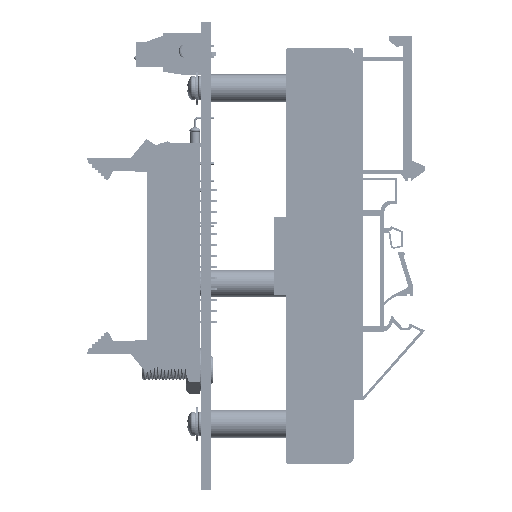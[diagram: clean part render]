
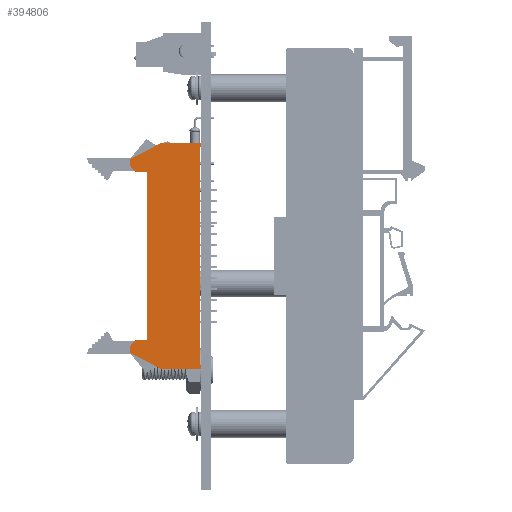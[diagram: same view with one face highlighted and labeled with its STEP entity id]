
A CAD part, left-side view. The second image highlights one B-rep face of the part: STEP entity #394806.
In plain terms, the highlighted planar face has unit normal (-1, 0, 0).
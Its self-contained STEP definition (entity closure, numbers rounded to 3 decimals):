
#2418 = LINE ( 'NONE', #289422, #168186 ) ;
#6869 = EDGE_CURVE ( 'NONE', #183978, #378523, #62615, .T. ) ;
#7757 = LINE ( 'NONE', #56213, #85535 ) ;
#9488 = ORIENTED_EDGE ( 'NONE', *, *, #122846, .F. ) ;
#17764 = DIRECTION ( 'NONE',  ( 0., 0., -1. ) ) ;
#19449 = CARTESIAN_POINT ( 'NONE',  ( -214.884, 13.627, 9.398 ) ) ;
#28802 = DIRECTION ( 'NONE',  ( 0., -1., 0. ) ) ;
#37025 = EDGE_CURVE ( 'NONE', #326029, #212846, #150920, .T. ) ;
#43603 = VECTOR ( 'NONE', #359230, 1000. ) ;
#43704 = ORIENTED_EDGE ( 'NONE', *, *, #398315, .F. ) ;
#56213 = CARTESIAN_POINT ( 'NONE',  ( -214.884, 1.181, -36.068 ) ) ;
#58666 = EDGE_LOOP ( 'NONE', ( #116820, #267382, #43704, #133811, #297288, #170814, #103152, #381309, #81847, #263973, #9488, #135791, #404146, #297310 ) ) ;
#60450 = CARTESIAN_POINT ( 'NONE',  ( -214.884, 1.181, 16.256 ) ) ;
#62615 = LINE ( 'NONE', #311916, #404613 ) ;
#65113 = EDGE_CURVE ( 'NONE', #366610, #333078, #190553, .T. ) ;
#66769 = CARTESIAN_POINT ( 'NONE',  ( -214.884, 15.405, -31.242 ) ) ;
#69102 = VERTEX_POINT ( 'NONE', #281248 ) ;
#73238 = CARTESIAN_POINT ( 'NONE',  ( -214.884, 1.372, 11.024 ) ) ;
#80462 = LINE ( 'NONE', #179293, #422487 ) ;
#80486 = VERTEX_POINT ( 'NONE', #111554 ) ;
#81847 = ORIENTED_EDGE ( 'NONE', *, *, #263823, .F. ) ;
#85535 = VECTOR ( 'NONE', #89519, 1000. ) ;
#86226 = LINE ( 'NONE', #224282, #381643 ) ;
#89519 = DIRECTION ( 'NONE',  ( 0., 1., 0. ) ) ;
#100061 = DIRECTION ( 'NONE',  ( 0., 0., -1. ) ) ;
#101140 = CARTESIAN_POINT ( 'NONE',  ( -214.884, 10.059, 16.256 ) ) ;
#103152 = ORIENTED_EDGE ( 'NONE', *, *, #277700, .F. ) ;
#107945 = VERTEX_POINT ( 'NONE', #135494 ) ;
#111554 = CARTESIAN_POINT ( 'NONE',  ( -214.884, 1.181, -36.068 ) ) ;
#114351 = DIRECTION ( 'NONE',  ( 0., 0., 1. ) ) ;
#116820 = ORIENTED_EDGE ( 'NONE', *, *, #65113, .F. ) ;
#122846 = EDGE_CURVE ( 'NONE', #212846, #326040, #232129, .T. ) ;
#128797 = DIRECTION ( 'NONE',  ( 0., 0.036, -0.999 ) ) ;
#133709 = VECTOR ( 'NONE', #114351, 1000. ) ;
#133811 = ORIENTED_EDGE ( 'NONE', *, *, #6869, .F. ) ;
#134052 = EDGE_CURVE ( 'NONE', #187655, #183978, #429700, .T. ) ;
#135494 = CARTESIAN_POINT ( 'NONE',  ( -214.884, 15.405, 9.398 ) ) ;
#135791 = ORIENTED_EDGE ( 'NONE', *, *, #37025, .F. ) ;
#136850 = CARTESIAN_POINT ( 'NONE',  ( -214.884, 15.405, -31.242 ) ) ;
#138730 = CARTESIAN_POINT ( 'NONE',  ( -214.884, 17.437, 11.43 ) ) ;
#139439 = EDGE_CURVE ( 'NONE', #80486, #326029, #7757, .T. ) ;
#148615 = CARTESIAN_POINT ( 'NONE',  ( -214.884, 10.059, -36.068 ) ) ;
#150206 = CIRCLE ( 'NONE', #153386, 2.032 ) ;
#150920 = LINE ( 'NONE', #148615, #228541 ) ;
#153386 = AXIS2_PLACEMENT_3D ( 'NONE', #414614, #216190, #17764 ) ;
#163824 = DIRECTION ( 'NONE',  ( 0., 0., 1. ) ) ;
#168186 = VECTOR ( 'NONE', #322709, 1000. ) ;
#169670 = CARTESIAN_POINT ( 'NONE',  ( -214.884, 10.059, -36.068 ) ) ;
#169858 = CARTESIAN_POINT ( 'NONE',  ( -214.884, 1.372, 11.024 ) ) ;
#170133 = DIRECTION ( 'NONE',  ( 0., 0., -1. ) ) ;
#170814 = ORIENTED_EDGE ( 'NONE', *, *, #252568, .F. ) ;
#179293 = CARTESIAN_POINT ( 'NONE',  ( -214.884, 13.627, -29.21 ) ) ;
#183978 = VERTEX_POINT ( 'NONE', #214792 ) ;
#187655 = VERTEX_POINT ( 'NONE', #138730 ) ;
#190553 = LINE ( 'NONE', #169858, #268267 ) ;
#212846 = VERTEX_POINT ( 'NONE', #301235 ) ;
#212979 = EDGE_CURVE ( 'NONE', #69102, #363709, #80462, .T. ) ;
#213322 = DIRECTION ( 'NONE',  ( 0., -0.891, 0.454 ) ) ;
#214792 = CARTESIAN_POINT ( 'NONE',  ( -214.884, 17.437, 12.497 ) ) ;
#216190 = DIRECTION ( 'NONE',  ( 1., 0., 0. ) ) ;
#224282 = CARTESIAN_POINT ( 'NONE',  ( -214.884, 1.372, -30.836 ) ) ;
#228541 = VECTOR ( 'NONE', #413645, 1000. ) ;
#228655 = CARTESIAN_POINT ( 'NONE',  ( -214.884, 10.059, 16.256 ) ) ;
#232129 = LINE ( 'NONE', #347486, #133709 ) ;
#245539 = LINE ( 'NONE', #293875, #323372 ) ;
#252568 = EDGE_CURVE ( 'NONE', #107945, #187655, #150206, .T. ) ;
#263823 = EDGE_CURVE ( 'NONE', #378189, #69102, #2418, .T. ) ;
#263973 = ORIENTED_EDGE ( 'NONE', *, *, #412970, .F. ) ;
#267382 = ORIENTED_EDGE ( 'NONE', *, *, #371979, .F. ) ;
#268267 = VECTOR ( 'NONE', #269785, 1000. ) ;
#269785 = DIRECTION ( 'NONE',  ( 0., 0., -1. ) ) ;
#277700 = EDGE_CURVE ( 'NONE', #363709, #107945, #297566, .T. ) ;
#281248 = CARTESIAN_POINT ( 'NONE',  ( -214.884, 13.627, -29.21 ) ) ;
#282264 = EDGE_CURVE ( 'NONE', #333078, #80486, #86226, .T. ) ;
#284596 = VECTOR ( 'NONE', #28802, 1000. ) ;
#289422 = CARTESIAN_POINT ( 'NONE',  ( -214.884, 15.405, -29.21 ) ) ;
#289547 = DIRECTION ( 'NONE',  ( 0., -0.036, -0.999 ) ) ;
#292654 = CARTESIAN_POINT ( 'NONE',  ( -214.884, 13.627, 9.398 ) ) ;
#293875 = CARTESIAN_POINT ( 'NONE',  ( -214.884, 1.181, 16.256 ) ) ;
#297288 = ORIENTED_EDGE ( 'NONE', *, *, #134052, .F. ) ;
#297310 = ORIENTED_EDGE ( 'NONE', *, *, #282264, .F. ) ;
#297566 = LINE ( 'NONE', #292654, #43603 ) ;
#298441 = DIRECTION ( 'NONE',  ( 1., 0., 0. ) ) ;
#301066 = VERTEX_POINT ( 'NONE', #60450 ) ;
#301235 = CARTESIAN_POINT ( 'NONE',  ( -214.884, 17.437, -32.309 ) ) ;
#311916 = CARTESIAN_POINT ( 'NONE',  ( -214.884, 17.437, 12.497 ) ) ;
#312283 = CARTESIAN_POINT ( 'NONE',  ( -214.884, 1.372, -30.836 ) ) ;
#322709 = DIRECTION ( 'NONE',  ( 0., -1., 0. ) ) ;
#323372 = VECTOR ( 'NONE', #128797, 1000. ) ;
#325920 = FACE_OUTER_BOUND ( 'NONE', #58666, .T. ) ;
#326029 = VERTEX_POINT ( 'NONE', #169670 ) ;
#326040 = VERTEX_POINT ( 'NONE', #401488 ) ;
#333078 = VERTEX_POINT ( 'NONE', #312283 ) ;
#347486 = CARTESIAN_POINT ( 'NONE',  ( -214.884, 17.437, -31.242 ) ) ;
#351859 = CARTESIAN_POINT ( 'NONE',  ( -214.884, 15.405, -29.21 ) ) ;
#353708 = CIRCLE ( 'NONE', #416545, 2.032 ) ;
#359230 = DIRECTION ( 'NONE',  ( 0., 1., 0. ) ) ;
#363709 = VERTEX_POINT ( 'NONE', #19449 ) ;
#366610 = VERTEX_POINT ( 'NONE', #73238 ) ;
#368546 = DIRECTION ( 'NONE',  ( 1., 0., 0. ) ) ;
#371979 = EDGE_CURVE ( 'NONE', #301066, #366610, #245539, .T. ) ;
#373723 = AXIS2_PLACEMENT_3D ( 'NONE', #136850, #368546, #170133 ) ;
#378189 = VERTEX_POINT ( 'NONE', #351859 ) ;
#378523 = VERTEX_POINT ( 'NONE', #101140 ) ;
#381309 = ORIENTED_EDGE ( 'NONE', *, *, #212979, .F. ) ;
#381643 = VECTOR ( 'NONE', #289547, 1000. ) ;
#383068 = LINE ( 'NONE', #228655, #284596 ) ;
#394806 = ADVANCED_FACE ( 'NONE', ( #325920 ), #429568, .F. ) ;
#395614 = CARTESIAN_POINT ( 'NONE',  ( -214.884, 17.437, 11.43 ) ) ;
#398315 = EDGE_CURVE ( 'NONE', #378523, #301066, #383068, .T. ) ;
#401488 = CARTESIAN_POINT ( 'NONE',  ( -214.884, 17.437, -31.242 ) ) ;
#404146 = ORIENTED_EDGE ( 'NONE', *, *, #139439, .F. ) ;
#404613 = VECTOR ( 'NONE', #213322, 1000. ) ;
#412427 = DIRECTION ( 'NONE',  ( 0., 0., 1. ) ) ;
#412970 = EDGE_CURVE ( 'NONE', #326040, #378189, #353708, .T. ) ;
#413645 = DIRECTION ( 'NONE',  ( 0., 0.891, 0.454 ) ) ;
#414614 = CARTESIAN_POINT ( 'NONE',  ( -214.884, 15.405, 11.43 ) ) ;
#416545 = AXIS2_PLACEMENT_3D ( 'NONE', #66769, #298441, #100061 ) ;
#419271 = VECTOR ( 'NONE', #163824, 1000. ) ;
#422487 = VECTOR ( 'NONE', #412427, 1000. ) ;
#429568 = PLANE ( 'NONE',  #373723 ) ;
#429700 = LINE ( 'NONE', #395614, #419271 ) ;
